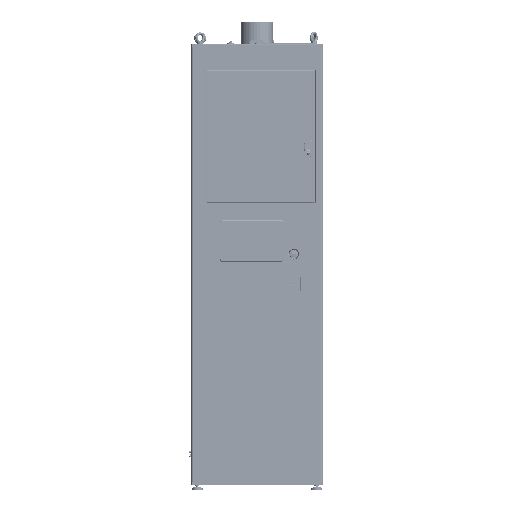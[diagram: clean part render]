
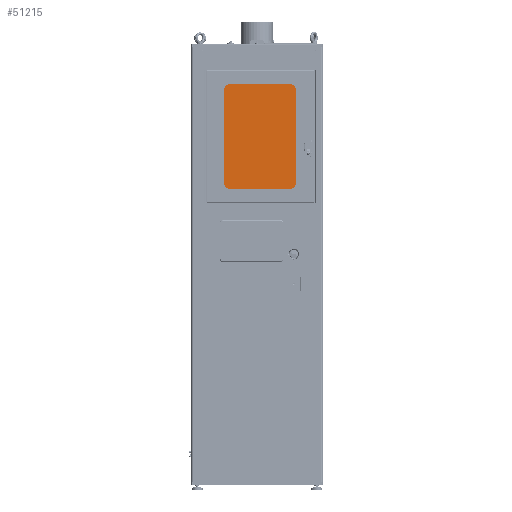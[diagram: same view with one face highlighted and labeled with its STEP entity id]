
A CAD part, top view. The second image highlights one B-rep face of the part: STEP entity #51215.
In plain terms, the highlighted planar face has unit normal (0, 0, 1).
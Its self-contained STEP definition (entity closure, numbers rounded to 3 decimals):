
#575 = ORIENTED_EDGE ( 'NONE', *, *, #194570, .F. ) ;
#2830 = EDGE_LOOP ( 'NONE', ( #60136 ) ) ;
#2899 = CARTESIAN_POINT ( 'NONE',  ( -175.5, -227., 6. ) ) ;
#3109 = CIRCLE ( 'NONE', #16121, 4. ) ;
#3278 = VERTEX_POINT ( 'NONE', #246612 ) ;
#3481 = DIRECTION ( 'NONE',  ( 1., 0., 0. ) ) ;
#3540 = FACE_BOUND ( 'NONE', #8337, .T. ) ;
#7447 = DIRECTION ( 'NONE',  ( 1., 0., 0. ) ) ;
#7782 = VERTEX_POINT ( 'NONE', #205146 ) ;
#8233 = EDGE_LOOP ( 'NONE', ( #67962 ) ) ;
#8337 = EDGE_LOOP ( 'NONE', ( #61578 ) ) ;
#9909 = DIRECTION ( 'NONE',  ( 0., 0., 1. ) ) ;
#10495 = DIRECTION ( 'NONE',  ( 0., 0., 1. ) ) ;
#16121 = AXIS2_PLACEMENT_3D ( 'NONE', #29981, #9909, #155813 ) ;
#17925 = CARTESIAN_POINT ( 'NONE',  ( -160., 256., 6. ) ) ;
#19251 = VECTOR ( 'NONE', #43106, 1000. ) ;
#19687 = FACE_BOUND ( 'NONE', #8233, .T. ) ;
#21006 = FACE_BOUND ( 'NONE', #178846, .T. ) ;
#22292 = FACE_BOUND ( 'NONE', #213990, .T. ) ;
#24360 = CIRCLE ( 'NONE', #186896, 4. ) ;
#25232 = CIRCLE ( 'NONE', #93655, 4. ) ;
#26223 = EDGE_CURVE ( 'NONE', #7782, #3278, #169476, .T. ) ;
#27691 = EDGE_CURVE ( 'NONE', #237938, #237938, #188768, .T. ) ;
#29521 = CARTESIAN_POINT ( 'NONE',  ( 164., 256., 6. ) ) ;
#29769 = ORIENTED_EDGE ( 'NONE', *, *, #213110, .F. ) ;
#29981 = CARTESIAN_POINT ( 'NONE',  ( 179.5, 0., 6. ) ) ;
#33757 = EDGE_LOOP ( 'NONE', ( #104043 ) ) ;
#37034 = ORIENTED_EDGE ( 'NONE', *, *, #239259, .F. ) ;
#41057 = ORIENTED_EDGE ( 'NONE', *, *, #130717, .F. ) ;
#43106 = DIRECTION ( 'NONE',  ( 0., 1., 0. ) ) ;
#43622 = DIRECTION ( 'NONE',  ( 0., 0., 1. ) ) ;
#48336 = VERTEX_POINT ( 'NONE', #113361 ) ;
#50609 = DIRECTION ( 'NONE',  ( 0., 0., 1. ) ) ;
#50922 = VERTEX_POINT ( 'NONE', #29521 ) ;
#51215 = ADVANCED_FACE ( 'NONE', ( #244790, #105271, #81266, #164245, #21006, #227284, #3540, #22292, #19687, #201933, #203246 ), #99984, .T. ) ;
#51991 = DIRECTION ( 'NONE',  ( 1., 0., 0. ) ) ;
#52482 = EDGE_LOOP ( 'NONE', ( #41057 ) ) ;
#56927 = CARTESIAN_POINT ( 'NONE',  ( 183.5, 227., 6. ) ) ;
#57863 = VERTEX_POINT ( 'NONE', #118127 ) ;
#59568 = CARTESIAN_POINT ( 'NONE',  ( 186., 262.5, 6. ) ) ;
#59940 = CIRCLE ( 'NONE', #222585, 4. ) ;
#60136 = ORIENTED_EDGE ( 'NONE', *, *, #139123, .F. ) ;
#61578 = ORIENTED_EDGE ( 'NONE', *, *, #107903, .F. ) ;
#67656 = AXIS2_PLACEMENT_3D ( 'NONE', #251458, #150875, #149566 ) ;
#67962 = ORIENTED_EDGE ( 'NONE', *, *, #149435, .F. ) ;
#69359 = CIRCLE ( 'NONE', #137798, 4. ) ;
#69462 = DIRECTION ( 'NONE',  ( 0., 1., 0. ) ) ;
#71157 = VERTEX_POINT ( 'NONE', #214611 ) ;
#79044 = DIRECTION ( 'NONE',  ( 1., 0., 0. ) ) ;
#81266 = FACE_BOUND ( 'NONE', #33757, .T. ) ;
#82877 = CARTESIAN_POINT ( 'NONE',  ( -179.5, 0., 6. ) ) ;
#86202 = EDGE_CURVE ( 'NONE', #7782, #48336, #246820, .T. ) ;
#92121 = DIRECTION ( 'NONE',  ( 1., 0., 0. ) ) ;
#93655 = AXIS2_PLACEMENT_3D ( 'NONE', #124103, #122806, #167025 ) ;
#94754 = CARTESIAN_POINT ( 'NONE',  ( -175.5, 0., 6. ) ) ;
#96043 = DIRECTION ( 'NONE',  ( 1., 0., 0. ) ) ;
#99088 = ORIENTED_EDGE ( 'NONE', *, *, #26223, .T. ) ;
#99526 = DIRECTION ( 'NONE',  ( 0., 0., 1. ) ) ;
#99984 = PLANE ( 'NONE',  #259699 ) ;
#102321 = AXIS2_PLACEMENT_3D ( 'NONE', #17925, #99526, #181267 ) ;
#102660 = DIRECTION ( 'NONE',  ( 1., 0., 0. ) ) ;
#104043 = ORIENTED_EDGE ( 'NONE', *, *, #230885, .F. ) ;
#105271 = FACE_BOUND ( 'NONE', #2830, .T. ) ;
#105627 = AXIS2_PLACEMENT_3D ( 'NONE', #82877, #143155, #242442 ) ;
#106070 = CARTESIAN_POINT ( 'NONE',  ( -175.5, 227., 6. ) ) ;
#107903 = EDGE_CURVE ( 'NONE', #218225, #218225, #25232, .T. ) ;
#110532 = CARTESIAN_POINT ( 'NONE',  ( -186., -262.5, 6. ) ) ;
#112228 = CARTESIAN_POINT ( 'NONE',  ( 160., 256., 6. ) ) ;
#112954 = CIRCLE ( 'NONE', #125700, 4. ) ;
#113018 = EDGE_LOOP ( 'NONE', ( #29769 ) ) ;
#113307 = CARTESIAN_POINT ( 'NONE',  ( 164., -256., 6. ) ) ;
#113361 = CARTESIAN_POINT ( 'NONE',  ( -186., 262.5, 6. ) ) ;
#118127 = CARTESIAN_POINT ( 'NONE',  ( -156., 256., 6. ) ) ;
#118766 = VERTEX_POINT ( 'NONE', #94754 ) ;
#119316 = VECTOR ( 'NONE', #7447, 1000. ) ;
#120530 = CARTESIAN_POINT ( 'NONE',  ( -186., 262.5, 6. ) ) ;
#122806 = DIRECTION ( 'NONE',  ( 0., 0., 1. ) ) ;
#123277 = ORIENTED_EDGE ( 'NONE', *, *, #27691, .F. ) ;
#124103 = CARTESIAN_POINT ( 'NONE',  ( 179.5, -227., 6. ) ) ;
#125100 = VECTOR ( 'NONE', #79044, 1000. ) ;
#125700 = AXIS2_PLACEMENT_3D ( 'NONE', #200723, #180465, #51991 ) ;
#125842 = EDGE_LOOP ( 'NONE', ( #144374 ) ) ;
#130717 = EDGE_CURVE ( 'NONE', #192484, #192484, #112954, .T. ) ;
#134365 = EDGE_LOOP ( 'NONE', ( #99088, #237457, #575, #151903 ) ) ;
#135020 = CARTESIAN_POINT ( 'NONE',  ( 186., -262.5, 6. ) ) ;
#135391 = VERTEX_POINT ( 'NONE', #217267 ) ;
#136706 = LINE ( 'NONE', #120530, #125100 ) ;
#137798 = AXIS2_PLACEMENT_3D ( 'NONE', #148063, #43622, #3481 ) ;
#139123 = EDGE_CURVE ( 'NONE', #207958, #207958, #174775, .T. ) ;
#143155 = DIRECTION ( 'NONE',  ( 0., 0., 1. ) ) ;
#143210 = DIRECTION ( 'NONE',  ( 0., 0., 1. ) ) ;
#144374 = ORIENTED_EDGE ( 'NONE', *, *, #174717, .F. ) ;
#148063 = CARTESIAN_POINT ( 'NONE',  ( -160., -256., 6. ) ) ;
#149435 = EDGE_CURVE ( 'NONE', #71157, #71157, #69359, .T. ) ;
#149566 = DIRECTION ( 'NONE',  ( 1., 0., 0. ) ) ;
#150875 = DIRECTION ( 'NONE',  ( 0., 0., 1. ) ) ;
#151903 = ORIENTED_EDGE ( 'NONE', *, *, #86202, .F. ) ;
#155813 = DIRECTION ( 'NONE',  ( 1., 0., 0. ) ) ;
#161864 = EDGE_CURVE ( 'NONE', #135391, #135391, #3109, .T. ) ;
#162930 = CARTESIAN_POINT ( 'NONE',  ( 0., 0., 6. ) ) ;
#164245 = FACE_BOUND ( 'NONE', #125842, .T. ) ;
#165978 = DIRECTION ( 'NONE',  ( 1., 0., 0. ) ) ;
#167025 = DIRECTION ( 'NONE',  ( 1., 0., 0. ) ) ;
#169476 = LINE ( 'NONE', #110532, #119316 ) ;
#172892 = ORIENTED_EDGE ( 'NONE', *, *, #161864, .F. ) ;
#174717 = EDGE_CURVE ( 'NONE', #50922, #50922, #59940, .T. ) ;
#174775 = CIRCLE ( 'NONE', #67656, 4. ) ;
#178846 = EDGE_LOOP ( 'NONE', ( #123277 ) ) ;
#180465 = DIRECTION ( 'NONE',  ( 0., 0., 1. ) ) ;
#181267 = DIRECTION ( 'NONE',  ( 1., 0., 0. ) ) ;
#186896 = AXIS2_PLACEMENT_3D ( 'NONE', #258270, #50609, #96043 ) ;
#186941 = CIRCLE ( 'NONE', #105627, 4. ) ;
#188768 = CIRCLE ( 'NONE', #261524, 4. ) ;
#192273 = CIRCLE ( 'NONE', #102321, 4. ) ;
#192484 = VERTEX_POINT ( 'NONE', #113307 ) ;
#194570 = EDGE_CURVE ( 'NONE', #48336, #222645, #136706, .T. ) ;
#200723 = CARTESIAN_POINT ( 'NONE',  ( 160., -256., 6. ) ) ;
#201933 = FACE_BOUND ( 'NONE', #52482, .T. ) ;
#203246 = FACE_OUTER_BOUND ( 'NONE', #134365, .T. ) ;
#204942 = CARTESIAN_POINT ( 'NONE',  ( 179.5, 227., 6. ) ) ;
#205146 = CARTESIAN_POINT ( 'NONE',  ( -186., -262.5, 6. ) ) ;
#207958 = VERTEX_POINT ( 'NONE', #106070 ) ;
#213110 = EDGE_CURVE ( 'NONE', #118766, #118766, #186941, .T. ) ;
#213990 = EDGE_LOOP ( 'NONE', ( #37034 ) ) ;
#214242 = CARTESIAN_POINT ( 'NONE',  ( 183.5, -227., 6. ) ) ;
#214611 = CARTESIAN_POINT ( 'NONE',  ( -156., -256., 6. ) ) ;
#217267 = CARTESIAN_POINT ( 'NONE',  ( 183.5, 0., 6. ) ) ;
#218225 = VERTEX_POINT ( 'NONE', #214242 ) ;
#222585 = AXIS2_PLACEMENT_3D ( 'NONE', #112228, #10495, #92121 ) ;
#222645 = VERTEX_POINT ( 'NONE', #59568 ) ;
#224652 = DIRECTION ( 'NONE',  ( 0., 0., 1. ) ) ;
#227284 = FACE_BOUND ( 'NONE', #252933, .T. ) ;
#230885 = EDGE_CURVE ( 'NONE', #57863, #57863, #192273, .T. ) ;
#231970 = CARTESIAN_POINT ( 'NONE',  ( -186., -262.5, 6. ) ) ;
#235116 = EDGE_CURVE ( 'NONE', #3278, #222645, #236965, .T. ) ;
#236965 = LINE ( 'NONE', #135020, #249354 ) ;
#237457 = ORIENTED_EDGE ( 'NONE', *, *, #235116, .T. ) ;
#237938 = VERTEX_POINT ( 'NONE', #56927 ) ;
#239259 = EDGE_CURVE ( 'NONE', #249378, #249378, #24360, .T. ) ;
#242442 = DIRECTION ( 'NONE',  ( 1., 0., 0. ) ) ;
#244790 = FACE_BOUND ( 'NONE', #113018, .T. ) ;
#246612 = CARTESIAN_POINT ( 'NONE',  ( 186., -262.5, 6. ) ) ;
#246820 = LINE ( 'NONE', #231970, #19251 ) ;
#249354 = VECTOR ( 'NONE', #69462, 1000. ) ;
#249378 = VERTEX_POINT ( 'NONE', #2899 ) ;
#251458 = CARTESIAN_POINT ( 'NONE',  ( -179.5, 227., 6. ) ) ;
#252933 = EDGE_LOOP ( 'NONE', ( #172892 ) ) ;
#258270 = CARTESIAN_POINT ( 'NONE',  ( -179.5, -227., 6. ) ) ;
#259699 = AXIS2_PLACEMENT_3D ( 'NONE', #162930, #224652, #102660 ) ;
#261524 = AXIS2_PLACEMENT_3D ( 'NONE', #204942, #143210, #165978 ) ;
